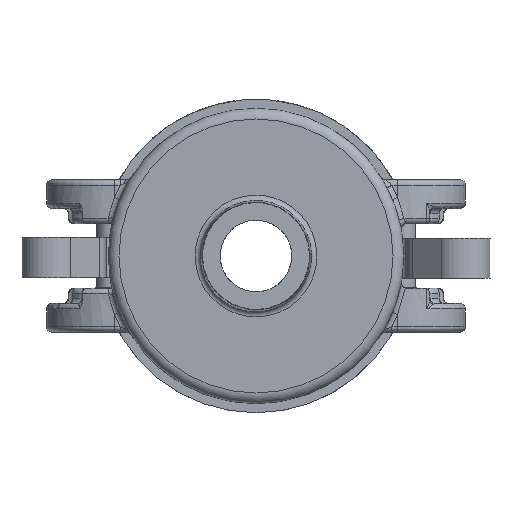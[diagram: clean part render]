
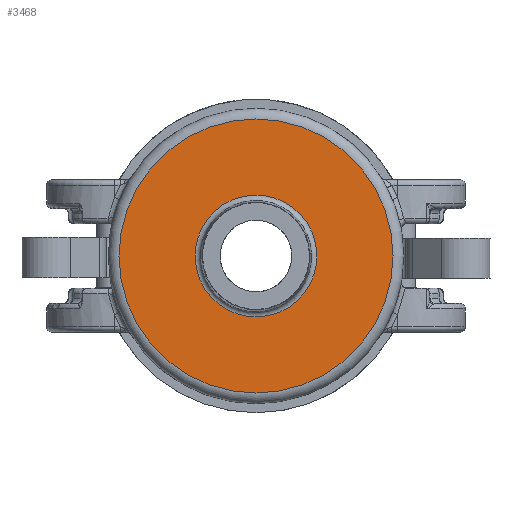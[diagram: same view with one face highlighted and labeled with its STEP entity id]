
A CAD part, left-side view. The second image highlights one B-rep face of the part: STEP entity #3468.
In plain terms, the highlighted planar face has unit normal (-1, 0, 0).
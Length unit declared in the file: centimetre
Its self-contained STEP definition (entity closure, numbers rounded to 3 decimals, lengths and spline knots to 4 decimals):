
#991=PLANE('',#3668);
#1085=VERTEX_POINT('',#4739);
#1087=VERTEX_POINT('',#4745);
#1386=CIRCLE('',#3665,0.8636);
#1388=CIRCLE('',#3669,1.9431);
#1576=EDGE_CURVE('',#1085,#1085,#1386,.T.);
#1578=EDGE_CURVE('',#1087,#1087,#1388,.T.);
#2040=ORIENTED_EDGE('',*,*,#1578,.F.);
#2041=ORIENTED_EDGE('',*,*,#1576,.F.);
#2962=EDGE_LOOP('',(#2040));
#2963=EDGE_LOOP('',(#2041));
#3216=FACE_BOUND('',#2962,.T.);
#3217=FACE_BOUND('',#2963,.T.);
#3468=ADVANCED_FACE('',(#3216,#3217),#991,.F.);
#3665=AXIS2_PLACEMENT_3D('',#4738,#4007,#4008);
#3668=AXIS2_PLACEMENT_3D('',#4743,#4013,$);
#3669=AXIS2_PLACEMENT_3D('',#4744,#4014,#4015);
#4007=DIRECTION('',(-1.,0.,0.));
#4008=DIRECTION('',(0.,0.862,-0.047));
#4013=DIRECTION('',(1.,0.,0.));
#4014=DIRECTION('',(1.,0.,0.));
#4015=DIRECTION('',(0.,0.,1.943));
#4738=CARTESIAN_POINT('',(-3.3782,0.,0.));
#4739=CARTESIAN_POINT('',(-3.3782,-0.8623,0.0465));
#4743=CARTESIAN_POINT('',(-3.3782,0.,0.));
#4744=CARTESIAN_POINT('',(-3.3782,0.,0.));
#4745=CARTESIAN_POINT('',(-3.3782,0.,-1.9431));
